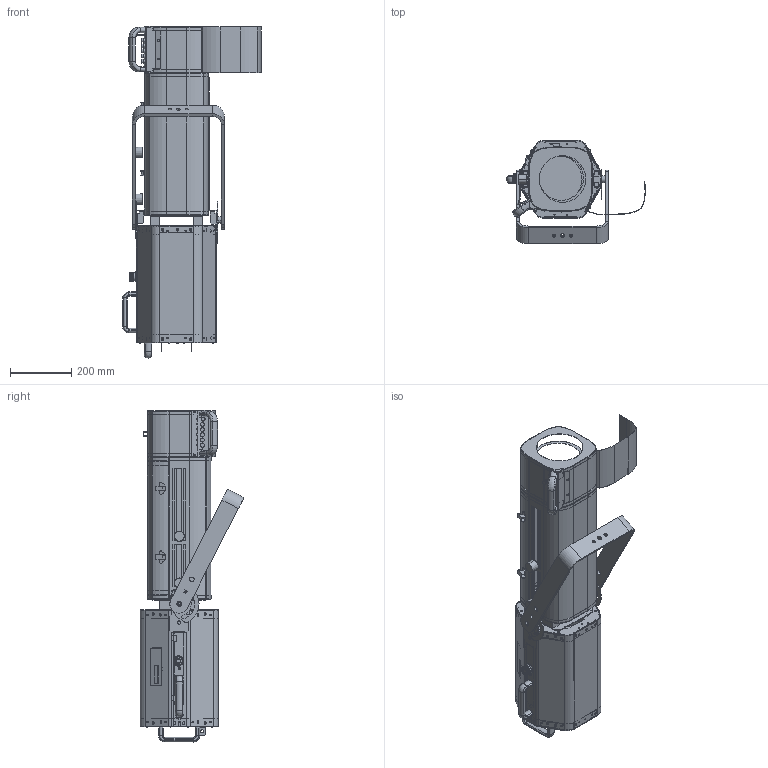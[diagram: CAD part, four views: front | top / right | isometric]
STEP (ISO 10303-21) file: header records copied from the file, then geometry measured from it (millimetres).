
FILE_DESCRIPTION (( 'STEP AP214' ), '1' );
FILE_NAME ('1176.STEP', '2025-06-03T06:25:48', ( '' ), ( '' ), 'SwSTEP 2.0', 'SolidWorks 2023', '' );
FILE_SCHEMA (( 'AUTOMOTIVE_DESIGN' ));
Length unit declared in the file: millimetre
Products named in the file (57): 400076 Capot kit couleurs_Plié; 408421 Kit Couleur Buxie_Ouvert; 407740 surmoulage sur insert bouton moleté bi Ø_Partie surmoulée pour insert bi Ø; 300504 Escargot male de 611; Niche connectique_LEXIE; 400071 Kit couleurs 208x208_Ouvert; 304249 Plaque de fenetre zoom; 210944 Corps de zoom; BO04010001 Bouton borne femelle_Rep 00; 400077 Corps kit couleurs_Plié; Canon de fourche; 310941 Chariot optique arriere_default; 404751 Entretoise gauche de fenetre; Support fourche Gauche complet; AFG0000002 Grenouillère TL 803 B13 noire; 300504 Escargot femelle de 611; 210944 Plaque renfort; 400997 Flan repoussé pour KC_Rep 00; 208420 Kit couleurs 208x208_Position Ouvert; 404751 Entretoise droite de fenetre; 310946 Zoom commun_Optiques reculés; 300502 Capot de zoom de 611; 404162 Renfort de fente avant droit de TOPAZE; 1176; 210944 Carrosserie de zoom; Capot HAUT_LEXIE; 300504 Charniere de 611_Fermée; 301671_Flan avant de zoom; Poignée; Support fourche Droit complet.; 407741 Bouton moleté bi Ø_Avec pastille Ø 29 pour Ø 6.2; 304204_Flan arriere de zoom; 310947 Nez de poursuite; 310939 Chariot optique avant_default; 310945 Carrosserie equipee; Vis à tête fraisée fendue_M 5 x10 Ac Z; IHM; 300503 Raccord capot; Capot BAS_LEXIE; 400298 Tiges de manoeuvre_Rep 01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
Assembly tree (87 placements, depth 7):
  1176
    310947 Nez de poursuite
      310946 Zoom commun_Optiques reculés
        310945 Carrosserie equipee
          210944 Carrosserie de zoom
            304204_Flan arriere de zoom
            210944 Corps de zoom
            301671_Flan avant de zoom
            300503 Raccord capot  x2
            210944 Plaque renfort
            404162 Renfort de fente avant droit de MANON  x2
            404162 Renfort de fente avant droit de TOPAZE  x2
        310939 Chariot optique avant_default
          407741 Bouton moleté bi Ø_Avec pastille Ø 29 pour Ø 6.2
            407740 surmoulage bouton moleté bi Ø_Pour moulage
              407740 surmoulage sur insert bouton moleté bi Ø_Partie surmoulée pour insert bi Ø
        310941 Chariot optique arriere_default
          407741 Bouton moleté bi Ø_Avec pastille Ø 29 pour Ø 6.2
            407740 surmoulage bouton moleté bi Ø_Pour moulage
              407740 surmoulage sur insert bouton moleté bi Ø_Partie surmoulée pour insert bi Ø
      310874 Capot de zoom de 611_Fermé
        300504 Charniere de 611_Fermée
          300504 Escargot male de 611
          300504 Escargot femelle de 611
        300502 Capot de zoom de 611
        AFG0000002 Grenouillère TL 803 B13 noire  x2
    Ecrous H_M 6  x4
    Rondelles contact à picots_Ø 6  x4
    408421 Kit Couleur Buxie_Ouvert
      208420 Kit couleurs 208x208_Position Ouvert
        400071 Kit couleurs 208x208_Ouvert
          400077 Corps kit couleurs_Plié
          400091 Flan KC 208x208_Rep 02  x2
          400076 Capot kit couleurs_Plié
          AFG0000002 Grenouillère TL 803 B13 noire
        400298 Tiges de manoeuvre_Rep 01  x6
        BO04010001 Bouton borne femelle_Rep 00  x6
        304847 Porte Gélatine 208x208_Rep 01
          400997 Flan repoussé pour KC_Rep 00
    Lanterne 67x_1176
      Structure
      Poignée  x2
      Capot BAS_LEXIE
      Capot HAUT_LEXIE
      IHM
      Bouton_Potard_Lexie
      Support fourche Droit complet.
      Support fourche Gauche complet
      308405_Presse couteaux
        304248 Plaque de fenetre lanterne
          304248 Plaque de fenetre lanterne
        404751 Entretoise droite de fenetre
        404751 Entretoise gauche de fenetre
        304249 Plaque de fenetre zoom
          304249 Plaque de fenetre zoom
        Vis à tête fraisée fendue_M 5 x10 Ac Z  x8
      Plaque arrière Lexie
      Niche connectique_LEXIE
    Fourche
    Canon de fourche
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Bounding box: 452.33 x 338.81 x 1083.6 mm (x, y, z)
Volume: 2742201.3 mm3; surface area: 3200779.4 mm2
Topology: 104 solids, 104 shells, 5082 faces, 11970 edges, 7219 vertices
Faces by surface type: plane 2380, cylinder 1855, cone 516, torus 311, bspline 20
Entity records: 136320 total; most frequent: CARTESIAN_POINT 26647, DIRECTION 23692, ORIENTED_EDGE 21426, EDGE_CURVE 10713, AXIS2_PLACEMENT_3D 8922, VERTEX_POINT 6454, VECTOR 5848, LINE 5848
